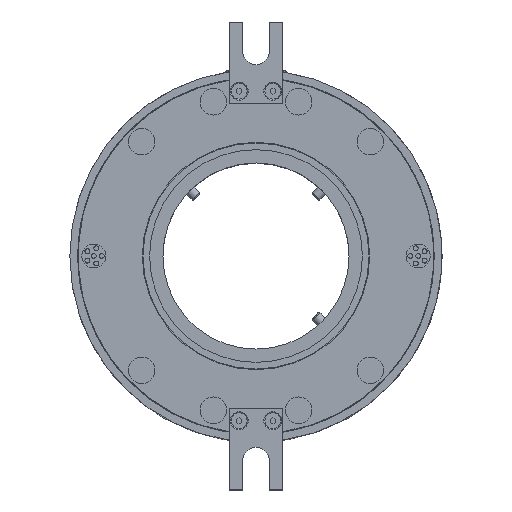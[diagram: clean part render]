
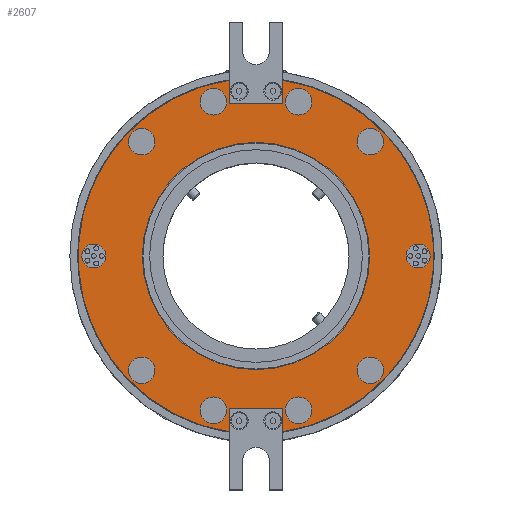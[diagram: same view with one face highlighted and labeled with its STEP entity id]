
A CAD part, top view. The second image highlights one B-rep face of the part: STEP entity #2607.
In plain terms, the highlighted planar face has unit normal (0, 0, 1).
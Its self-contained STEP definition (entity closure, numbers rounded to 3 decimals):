
#280=FACE_BOUND('',#4560,.T.);
#281=FACE_BOUND('',#4561,.T.);
#282=FACE_BOUND('',#4562,.T.);
#283=FACE_BOUND('',#4563,.T.);
#284=FACE_BOUND('',#4564,.T.);
#285=FACE_BOUND('',#4565,.T.);
#286=FACE_BOUND('',#4566,.T.);
#287=FACE_BOUND('',#4567,.T.);
#288=FACE_BOUND('',#4568,.T.);
#289=FACE_BOUND('',#4569,.T.);
#290=FACE_BOUND('',#4570,.T.);
#291=FACE_BOUND('',#4571,.T.);
#627=CIRCLE('',#14600,4.5);
#628=CIRCLE('',#14605,66.9);
#629=CIRCLE('',#14606,66.9);
#630=CIRCLE('',#14611,5.);
#631=CIRCLE('',#14613,5.);
#632=CIRCLE('',#14615,5.);
#633=CIRCLE('',#14617,5.);
#634=CIRCLE('',#14619,4.5);
#635=CIRCLE('',#14621,5.);
#636=CIRCLE('',#14623,5.);
#637=CIRCLE('',#14625,5.);
#638=CIRCLE('',#14627,5.);
#644=CIRCLE('',#14642,42.75);
#1261=LINE('',#26349,#1853);
#1263=LINE('',#26353,#1855);
#1264=LINE('',#26355,#1856);
#1270=LINE('',#26368,#1862);
#1272=LINE('',#26372,#1864);
#1273=LINE('',#26374,#1865);
#1853=VECTOR('',#16332,1.);
#1855=VECTOR('',#16336,1.);
#1856=VECTOR('',#16339,1.);
#1862=VECTOR('',#16353,1.);
#1864=VECTOR('',#16357,1.);
#1865=VECTOR('',#16360,1.);
#2607=ADVANCED_FACE('',(#280,#281,#282,#283,#284,#285,#286,#287,#288,#289,
#290,#291),#3146,.T.);
#3146=PLANE('',#14643);
#4560=EDGE_LOOP('',(#7173));
#4561=EDGE_LOOP('',(#7174));
#4562=EDGE_LOOP('',(#7175));
#4563=EDGE_LOOP('',(#7176));
#4564=EDGE_LOOP('',(#7177));
#4565=EDGE_LOOP('',(#7178));
#4566=EDGE_LOOP('',(#7179));
#4567=EDGE_LOOP('',(#7180));
#4568=EDGE_LOOP('',(#7181));
#4569=EDGE_LOOP('',(#7182,#7183,#7184,#7185,#7186,#7187,#7188,#7189));
#4570=EDGE_LOOP('',(#7190));
#4571=EDGE_LOOP('',(#7191));
#7173=ORIENTED_EDGE('',*,*,#11931,.T.);
#7174=ORIENTED_EDGE('',*,*,#11930,.T.);
#7175=ORIENTED_EDGE('',*,*,#11929,.T.);
#7176=ORIENTED_EDGE('',*,*,#11928,.T.);
#7177=ORIENTED_EDGE('',*,*,#11927,.T.);
#7178=ORIENTED_EDGE('',*,*,#11926,.T.);
#7179=ORIENTED_EDGE('',*,*,#11925,.T.);
#7180=ORIENTED_EDGE('',*,*,#11924,.T.);
#7181=ORIENTED_EDGE('',*,*,#11923,.T.);
#7182=ORIENTED_EDGE('',*,*,#11920,.F.);
#7183=ORIENTED_EDGE('',*,*,#11919,.F.);
#7184=ORIENTED_EDGE('',*,*,#11917,.F.);
#7185=ORIENTED_EDGE('',*,*,#11912,.F.);
#7186=ORIENTED_EDGE('',*,*,#11909,.F.);
#7187=ORIENTED_EDGE('',*,*,#11908,.F.);
#7188=ORIENTED_EDGE('',*,*,#11906,.F.);
#7189=ORIENTED_EDGE('',*,*,#11913,.F.);
#7190=ORIENTED_EDGE('',*,*,#11961,.F.);
#7191=ORIENTED_EDGE('',*,*,#11902,.T.);
#10027=VERTEX_POINT('',#26226);
#10028=VERTEX_POINT('',#26227);
#10033=VERTEX_POINT('',#26240);
#10034=VERTEX_POINT('',#26241);
#10067=VERTEX_POINT('',#26342);
#10068=VERTEX_POINT('',#26345);
#10070=VERTEX_POINT('',#26352);
#10072=VERTEX_POINT('',#26364);
#10074=VERTEX_POINT('',#26371);
#10076=VERTEX_POINT('',#26380);
#10077=VERTEX_POINT('',#26383);
#10078=VERTEX_POINT('',#26386);
#10079=VERTEX_POINT('',#26389);
#10080=VERTEX_POINT('',#26392);
#10081=VERTEX_POINT('',#26395);
#10082=VERTEX_POINT('',#26398);
#10083=VERTEX_POINT('',#26401);
#10084=VERTEX_POINT('',#26404);
#10110=VERTEX_POINT('',#26469);
#11902=EDGE_CURVE('',#10067,#10067,#627,.T.);
#11906=EDGE_CURVE('',#10027,#10068,#1261,.T.);
#11908=EDGE_CURVE('',#10068,#10070,#1263,.T.);
#11909=EDGE_CURVE('',#10070,#10028,#1264,.T.);
#11912=EDGE_CURVE('',#10028,#10033,#628,.T.);
#11913=EDGE_CURVE('',#10034,#10027,#629,.T.);
#11917=EDGE_CURVE('',#10033,#10072,#1270,.T.);
#11919=EDGE_CURVE('',#10072,#10074,#1272,.T.);
#11920=EDGE_CURVE('',#10074,#10034,#1273,.T.);
#11923=EDGE_CURVE('',#10076,#10076,#630,.T.);
#11924=EDGE_CURVE('',#10077,#10077,#631,.T.);
#11925=EDGE_CURVE('',#10078,#10078,#632,.T.);
#11926=EDGE_CURVE('',#10079,#10079,#633,.T.);
#11927=EDGE_CURVE('',#10080,#10080,#634,.T.);
#11928=EDGE_CURVE('',#10081,#10081,#635,.T.);
#11929=EDGE_CURVE('',#10082,#10082,#636,.T.);
#11930=EDGE_CURVE('',#10083,#10083,#637,.T.);
#11931=EDGE_CURVE('',#10084,#10084,#638,.T.);
#11961=EDGE_CURVE('',#10110,#10110,#644,.T.);
#14600=AXIS2_PLACEMENT_3D('',#26341,#16325,#16326);
#14605=AXIS2_PLACEMENT_3D('',#26360,#16344,#16345);
#14606=AXIS2_PLACEMENT_3D('',#26361,#16346,#16347);
#14611=AXIS2_PLACEMENT_3D('',#26379,#16365,#16366);
#14613=AXIS2_PLACEMENT_3D('',#26382,#16369,#16370);
#14615=AXIS2_PLACEMENT_3D('',#26385,#16373,#16374);
#14617=AXIS2_PLACEMENT_3D('',#26388,#16377,#16378);
#14619=AXIS2_PLACEMENT_3D('',#26391,#16381,#16382);
#14621=AXIS2_PLACEMENT_3D('',#26394,#16385,#16386);
#14623=AXIS2_PLACEMENT_3D('',#26397,#16389,#16390);
#14625=AXIS2_PLACEMENT_3D('',#26400,#16393,#16394);
#14627=AXIS2_PLACEMENT_3D('',#26403,#16397,#16398);
#14642=AXIS2_PLACEMENT_3D('',#26468,#16451,#16452);
#14643=AXIS2_PLACEMENT_3D('',#26470,#16453,#16454);
#16325=DIRECTION('',(0.,0.,-1.));
#16326=DIRECTION('',(-1.,0.,0.));
#16332=DIRECTION('',(0.,-1.,0.));
#16336=DIRECTION('',(1.,0.,0.));
#16339=DIRECTION('',(0.,1.,0.));
#16344=DIRECTION('',(0.,0.,-1.));
#16345=DIRECTION('',(1.,0.,0.));
#16346=DIRECTION('',(0.,0.,-1.));
#16347=DIRECTION('',(1.,0.,0.));
#16353=DIRECTION('',(0.,1.,0.));
#16357=DIRECTION('',(-1.,0.,0.));
#16360=DIRECTION('',(0.,-1.,0.));
#16365=DIRECTION('',(0.,0.,-1.));
#16366=DIRECTION('',(-1.,0.,0.));
#16369=DIRECTION('',(0.,0.,-1.));
#16370=DIRECTION('',(-1.,0.,0.));
#16373=DIRECTION('',(0.,0.,-1.));
#16374=DIRECTION('',(-1.,0.,0.));
#16377=DIRECTION('',(0.,0.,-1.));
#16378=DIRECTION('',(-1.,0.,0.));
#16381=DIRECTION('',(0.,0.,-1.));
#16382=DIRECTION('',(1.,0.,0.));
#16385=DIRECTION('',(0.,0.,-1.));
#16386=DIRECTION('',(-1.,0.,0.));
#16389=DIRECTION('',(0.,0.,-1.));
#16390=DIRECTION('',(-1.,0.,0.));
#16393=DIRECTION('',(0.,0.,-1.));
#16394=DIRECTION('',(-1.,0.,0.));
#16397=DIRECTION('',(0.,0.,-1.));
#16398=DIRECTION('',(-1.,0.,0.));
#16451=DIRECTION('',(0.,0.,1.));
#16452=DIRECTION('',(1.,0.,0.));
#16453=DIRECTION('',(0.,0.,1.));
#16454=DIRECTION('',(1.,0.,0.));
#26226=CARTESIAN_POINT('',(-10.,66.148,90.5));
#26227=CARTESIAN_POINT('',(10.,66.148,90.5));
#26240=CARTESIAN_POINT('',(10.,-66.148,90.5));
#26241=CARTESIAN_POINT('',(-10.,-66.148,90.5));
#26341=CARTESIAN_POINT('',(61.,0.,90.5));
#26342=CARTESIAN_POINT('',(56.5,0.,90.5));
#26345=CARTESIAN_POINT('',(-10.,57.5,90.5));
#26349=CARTESIAN_POINT('',(-10.,72.75,90.5));
#26352=CARTESIAN_POINT('',(10.,57.5,90.5));
#26353=CARTESIAN_POINT('',(0.,57.5,90.5));
#26355=CARTESIAN_POINT('',(10.,72.75,90.5));
#26360=CARTESIAN_POINT('',(0.,0.,90.5));
#26361=CARTESIAN_POINT('',(0.,0.,90.5));
#26364=CARTESIAN_POINT('',(10.,-57.5,90.5));
#26368=CARTESIAN_POINT('',(10.,-72.75,90.5));
#26371=CARTESIAN_POINT('',(-10.,-57.5,90.5));
#26372=CARTESIAN_POINT('',(0.,-57.5,90.5));
#26374=CARTESIAN_POINT('',(-10.,-72.75,90.5));
#26379=CARTESIAN_POINT('',(43.,-43.,90.5));
#26380=CARTESIAN_POINT('',(38.,-43.,90.5));
#26382=CARTESIAN_POINT('',(16.,-58.,90.5));
#26383=CARTESIAN_POINT('',(11.,-58.,90.5));
#26385=CARTESIAN_POINT('',(-16.,-58.,90.5));
#26386=CARTESIAN_POINT('',(-21.,-58.,90.5));
#26388=CARTESIAN_POINT('',(-43.,-43.,90.5));
#26389=CARTESIAN_POINT('',(-48.,-43.,90.5));
#26391=CARTESIAN_POINT('',(-61.,0.,90.5));
#26392=CARTESIAN_POINT('',(-56.5,0.,90.5));
#26394=CARTESIAN_POINT('',(-43.,43.,90.5));
#26395=CARTESIAN_POINT('',(-48.,43.,90.5));
#26397=CARTESIAN_POINT('',(43.,43.,90.5));
#26398=CARTESIAN_POINT('',(38.,43.,90.5));
#26400=CARTESIAN_POINT('',(16.,58.,90.5));
#26401=CARTESIAN_POINT('',(11.,58.,90.5));
#26403=CARTESIAN_POINT('',(-16.,58.,90.5));
#26404=CARTESIAN_POINT('',(-21.,58.,90.5));
#26468=CARTESIAN_POINT('',(0.,0.,90.5));
#26469=CARTESIAN_POINT('',(42.75,0.,90.5));
#26470=CARTESIAN_POINT('',(0.,0.,90.5));
